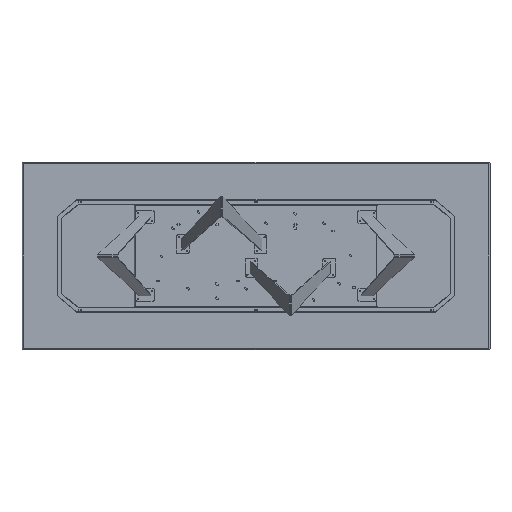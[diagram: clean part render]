
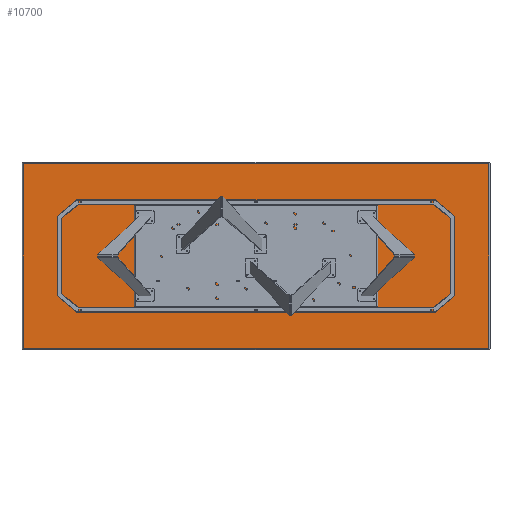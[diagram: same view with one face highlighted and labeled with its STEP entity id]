
A CAD part, front view. The second image highlights one B-rep face of the part: STEP entity #10700.
In plain terms, the highlighted planar face has unit normal (0, -1, 0).
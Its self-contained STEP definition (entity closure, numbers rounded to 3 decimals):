
#243 = VECTOR ( 'NONE', #3523, 1000. ) ;
#912 = ORIENTED_EDGE ( 'NONE', *, *, #3595, .T. ) ;
#1332 = CARTESIAN_POINT ( 'NONE',  ( 1492., 0., 0. ) ) ;
#3523 = DIRECTION ( 'NONE',  ( -1., 0., 0. ) ) ;
#3595 = EDGE_CURVE ( 'NONE', #11938, #13777, #9048, .T. ) ;
#3778 = VECTOR ( 'NONE', #11679, 1000. ) ;
#4347 = ORIENTED_EDGE ( 'NONE', *, *, #9778, .T. ) ;
#4444 = EDGE_LOOP ( 'NONE', ( #4347, #12942, #4699, #912 ) ) ;
#4699 = ORIENTED_EDGE ( 'NONE', *, *, #15340, .T. ) ;
#4847 = AXIS2_PLACEMENT_3D ( 'NONE', #13830, #11141, #7435 ) ;
#5297 = CARTESIAN_POINT ( 'NONE',  ( 1492., 0., 592. ) ) ;
#5647 = CARTESIAN_POINT ( 'NONE',  ( 1492., 0., -592. ) ) ;
#5751 = CARTESIAN_POINT ( 'NONE',  ( -1492., 0., -592. ) ) ;
#6459 = VERTEX_POINT ( 'NONE', #5297 ) ;
#6544 = LINE ( 'NONE', #1332, #3778 ) ;
#6682 = EDGE_CURVE ( 'NONE', #6459, #15240, #8729, .T. ) ;
#7010 = LINE ( 'NONE', #11053, #7928 ) ;
#7350 = FACE_OUTER_BOUND ( 'NONE', #4444, .T. ) ;
#7435 = DIRECTION ( 'NONE',  ( 0., 0., 1. ) ) ;
#7928 = VECTOR ( 'NONE', #9779, 1000. ) ;
#8688 = PLANE ( 'NONE',  #4847 ) ;
#8729 = LINE ( 'NONE', #16400, #243 ) ;
#9048 = LINE ( 'NONE', #14196, #15061 ) ;
#9447 = CARTESIAN_POINT ( 'NONE',  ( -1492., 0., 592. ) ) ;
#9778 = EDGE_CURVE ( 'NONE', #13777, #6459, #6544, .T. ) ;
#9779 = DIRECTION ( 'NONE',  ( 0., 0., -1. ) ) ;
#10700 = ADVANCED_FACE ( 'NONE', ( #7350 ), #8688, .F. ) ;
#11053 = CARTESIAN_POINT ( 'NONE',  ( -1492., 0., 0. ) ) ;
#11141 = DIRECTION ( 'NONE',  ( 0., 1., 0. ) ) ;
#11679 = DIRECTION ( 'NONE',  ( 0., 0., 1. ) ) ;
#11938 = VERTEX_POINT ( 'NONE', #5751 ) ;
#12942 = ORIENTED_EDGE ( 'NONE', *, *, #6682, .T. ) ;
#13777 = VERTEX_POINT ( 'NONE', #5647 ) ;
#13830 = CARTESIAN_POINT ( 'NONE',  ( 0., 0., 0. ) ) ;
#14196 = CARTESIAN_POINT ( 'NONE',  ( 0., 0., -592. ) ) ;
#15061 = VECTOR ( 'NONE', #15201, 1000. ) ;
#15201 = DIRECTION ( 'NONE',  ( 1., 0., 0. ) ) ;
#15240 = VERTEX_POINT ( 'NONE', #9447 ) ;
#15340 = EDGE_CURVE ( 'NONE', #15240, #11938, #7010, .T. ) ;
#16400 = CARTESIAN_POINT ( 'NONE',  ( 0., 0., 592. ) ) ;
